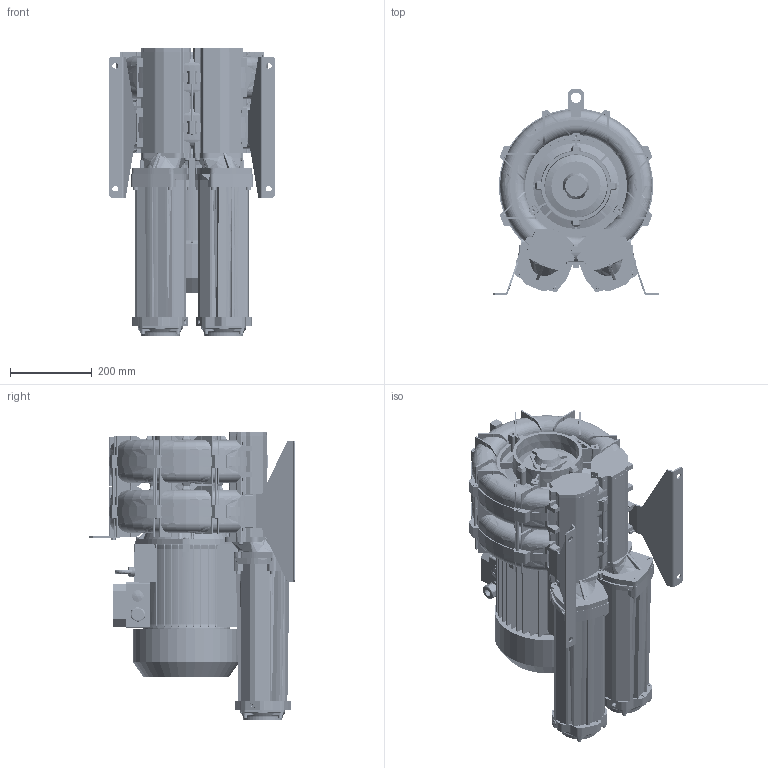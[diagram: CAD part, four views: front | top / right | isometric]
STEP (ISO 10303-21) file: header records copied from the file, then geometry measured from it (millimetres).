
FILE_DESCRIPTION (( 'STEP AP203' ), '1' );
FILE_NAME ('STP-L_e_06_TS_MOR_IE3WR_132_5.5kW-3_25-00.step', '2025-03-03T13:11:21', ( '' ), ( '' ), 'SwSTEP 2.0', 'SolidWorks 2024', '' );
FILE_SCHEMA (( 'CONFIG_CONTROL_DESIGN' ));
Length unit declared in the file: millimetre
Products named in the file (1): STP-L_e_06_TS_MOR_IE3WR_132_5.5kW-3_25-00
Bounding box: 404 x 503.5 x 704.5 mm (x, y, z)
Volume: 43359178.8 mm3; surface area: 3338247.8 mm2
Topology: 108 solids, 116 shells, 6423 faces, 17099 edges, 10852 vertices
Faces by surface type: plane 2725, cylinder 1682, bspline 840, cone 727, torus 376, sphere 73
Full cylindrical faces by diameter (mm): 4.917 x7, 5 x21, 6 x36, 6.4 x20, 6.5 x5, 6.8 x11, 6.9 x4, 7.5 x4, 8 x16, 8.4 x16, 8.5 x14, 8.566 x2, 8.8 x4, 9 x12, 9.4 x4, 9.5 x4, 9.98 x2, 10 x43, 12 x2, 12.02 x2, 13 x32, 14 x10, 15 x4, 16.5 x2, 18 x1, 19 x1, 20 x2, 21.4 x1, 24 x4, 25 x4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
Entity records: 328804 total; most frequent: CARTESIAN_POINT 180084, ORIENTED_EDGE 32142, DIRECTION 28740, EDGE_CURVE 16071, AXIS2_PLACEMENT_3D 10613, VERTEX_POINT 10579, VECTOR 7514, LINE 7514
